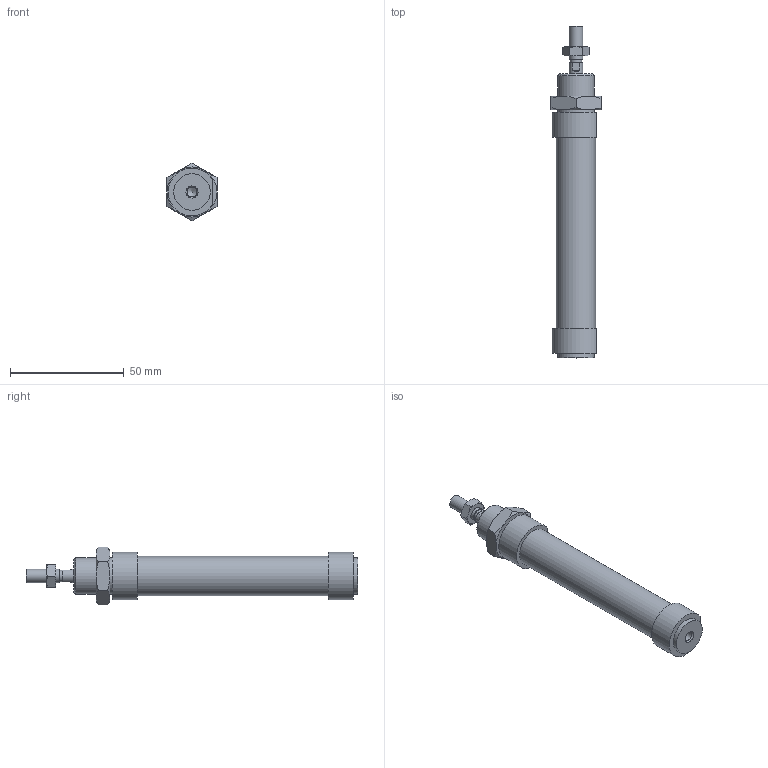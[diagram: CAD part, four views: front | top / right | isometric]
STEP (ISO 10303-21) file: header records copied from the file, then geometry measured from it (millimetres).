
FILE_DESCRIPTION((''),'2;1');
FILE_NAME('I:\Area Tecnica\Disegni\VARIE-3D\Componenti\1280\1281_##_####_#\1281_16_0050.iam.stp','2009-06-04T09:38:28',(''),(''),'Autodesk Inventor 2010','Autodesk Inventor 2010','');
FILE_SCHEMA(('AUTOMOTIVE_DESIGN { 1 0 10303 214 1 1 1 1 }'));
Length unit declared in the file: millimetre
Products named in the file (5): 1281_16_0050; C1281_16_50; S1280_16_50; 1200_16_05; 1200_16_06
Assembly tree (4 placements, depth 2):
  1281_16_0050
    C1281_16_50
    S1280_16_50
    1200_16_05
    1200_16_06
Bounding box: 22 x 146 x 25.4 mm (x, y, z)
Volume: 32770.5 mm3; surface area: 12856.6 mm2
Topology: 4 solids, 4 shells, 83 faces, 169 edges, 102 vertices
Faces by surface type: plane 34, cone 26, bspline 14, cylinder 9
Full cylindrical faces by diameter (mm): 5 x1, 6 x3, 16 x2, 17.2 x1
Entity records: 2370 total; most frequent: CARTESIAN_POINT 636, DIRECTION 314, ORIENTED_EDGE 284, AXIS2_PLACEMENT_3D 142, EDGE_CURVE 142, EDGE_LOOP 116, VERTEX_POINT 96, STYLED_ITEM 87
